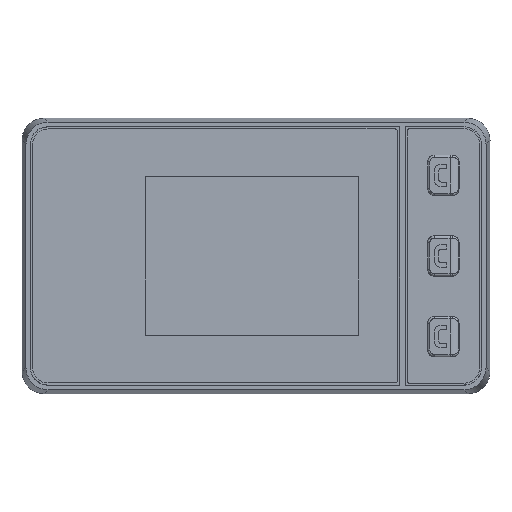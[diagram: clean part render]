
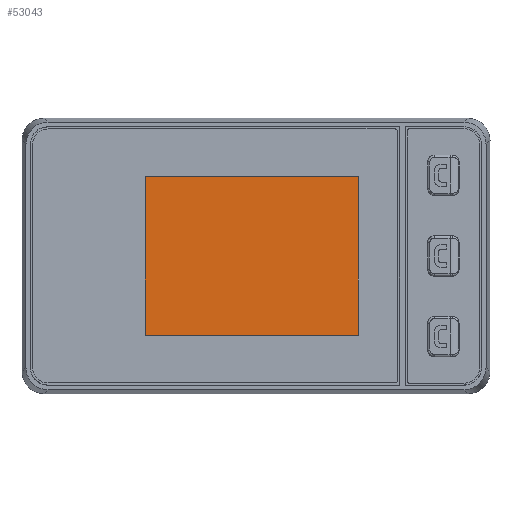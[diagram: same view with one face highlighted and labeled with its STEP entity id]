
A CAD part, top view. The second image highlights one B-rep face of the part: STEP entity #53043.
In plain terms, the highlighted planar face has unit normal (0, 0, 1).
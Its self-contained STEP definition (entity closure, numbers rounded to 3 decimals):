
#461 = CARTESIAN_POINT ( 'NONE',  ( -24.46, -14.62, 2.39 ) ) ;
#4217 = DIRECTION ( 'NONE',  ( 0., 1., 0. ) ) ;
#4470 = VERTEX_POINT ( 'NONE', #62675 ) ;
#6443 = DIRECTION ( 'NONE',  ( -1., 0., 0. ) ) ;
#8134 = DIRECTION ( 'NONE',  ( 0., 0., -1. ) ) ;
#8591 = CARTESIAN_POINT ( 'NONE',  ( 23.103, -14.62, 2.39 ) ) ;
#10246 = LINE ( 'NONE', #8591, #97654 ) ;
#14272 = DIRECTION ( 'NONE',  ( 0., -1., 0. ) ) ;
#16690 = LINE ( 'NONE', #64996, #81658 ) ;
#23307 = CARTESIAN_POINT ( 'NONE',  ( 23.103, 20.71, 2.39 ) ) ;
#23800 = DIRECTION ( 'NONE',  ( 1., 0., 0. ) ) ;
#24719 = VERTEX_POINT ( 'NONE', #44915 ) ;
#24747 = PLANE ( 'NONE',  #100402 ) ;
#27508 = VECTOR ( 'NONE', #23800, 1000. ) ;
#28318 = EDGE_CURVE ( 'NONE', #4470, #82199, #16690, .T. ) ;
#37882 = CARTESIAN_POINT ( 'NONE',  ( 23.103, -14.62, 2.39 ) ) ;
#39262 = ORIENTED_EDGE ( 'NONE', *, *, #58744, .F. ) ;
#42420 = ORIENTED_EDGE ( 'NONE', *, *, #28318, .T. ) ;
#44915 = CARTESIAN_POINT ( 'NONE',  ( 23.103, -14.62, 2.39 ) ) ;
#49962 = LINE ( 'NONE', #57540, #27508 ) ;
#52966 = VERTEX_POINT ( 'NONE', #23307 ) ;
#53043 = ADVANCED_FACE ( 'NONE', ( #87255 ), #24747, .F. ) ;
#55596 = ORIENTED_EDGE ( 'NONE', *, *, #94386, .T. ) ;
#57540 = CARTESIAN_POINT ( 'NONE',  ( -24.46, 20.71, 2.39 ) ) ;
#58744 = EDGE_CURVE ( 'NONE', #24719, #82199, #10246, .T. ) ;
#58890 = CARTESIAN_POINT ( 'NONE',  ( 0.924, -0.206, 2.39 ) ) ;
#62675 = CARTESIAN_POINT ( 'NONE',  ( -24.46, 20.71, 2.39 ) ) ;
#64996 = CARTESIAN_POINT ( 'NONE',  ( -24.46, 20.71, 2.39 ) ) ;
#67159 = VECTOR ( 'NONE', #4217, 1000. ) ;
#67372 = DIRECTION ( 'NONE',  ( -1., 0., 0. ) ) ;
#78146 = ORIENTED_EDGE ( 'NONE', *, *, #102892, .F. ) ;
#81658 = VECTOR ( 'NONE', #14272, 1000. ) ;
#82199 = VERTEX_POINT ( 'NONE', #461 ) ;
#87255 = FACE_OUTER_BOUND ( 'NONE', #93858, .T. ) ;
#89666 = LINE ( 'NONE', #37882, #67159 ) ;
#93858 = EDGE_LOOP ( 'NONE', ( #39262, #55596, #78146, #42420 ) ) ;
#94386 = EDGE_CURVE ( 'NONE', #24719, #52966, #89666, .T. ) ;
#97654 = VECTOR ( 'NONE', #6443, 1000. ) ;
#100402 = AXIS2_PLACEMENT_3D ( 'NONE', #58890, #8134, #67372 ) ;
#102892 = EDGE_CURVE ( 'NONE', #4470, #52966, #49962, .T. ) ;
